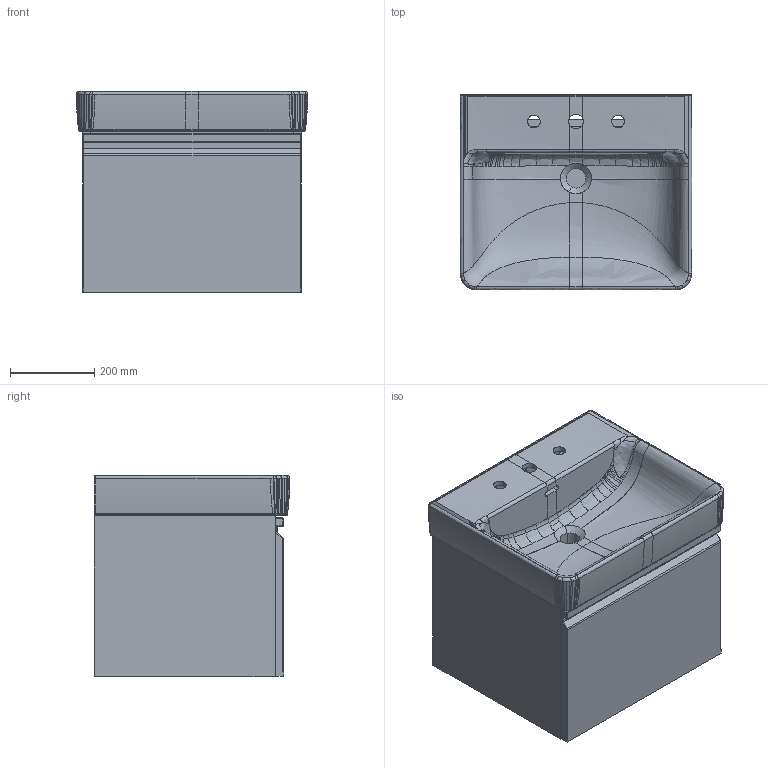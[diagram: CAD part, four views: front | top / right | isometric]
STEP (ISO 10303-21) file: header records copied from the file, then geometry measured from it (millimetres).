
FILE_DESCRIPTION(/* description */ (''),/* implementation_level */ '2;1');
FILE_NAME(/* name */ 'C:\Users\User33\Desktop\Pro S\3D01_483351.stp',/* time_stamp */ '2018-05-10T11:53:49+02:00',/* author */ ('User33'),/* organization */ (''),/* preprocessor_version */ 'ST-DEVELOPER v16.13',/* originating_system */ 'Autodesk Inventor 2018',/* authorisation */ '');
FILE_SCHEMA (('AUTOMOTIVE_DESIGN { 1 0 10303 214 3 1 1 }'));
Products named in the file (20): Assieme1; Parte1; Parte11; Parte21; Parte23; Parte25; Parte27; Parte29; Parte31; Parte41; Parte43; Parte45; Parte47; Parte49; Parte51; Parte61; Parte65; Parte67; Parte69; Parte71
Assembly tree (19 placements, depth 2):
  Assieme1
    Parte1
    Parte11
    Parte21
    Parte23
    Parte25
    Parte27
    Parte29
    Parte31
    Parte41
    Parte43
    Parte45
    Parte47
    Parte49
    Parte51
    Parte61
    Parte65
    Parte67
    Parte69
    Parte71
Bounding box: 549.94 x 464.97 x 478 mm (x, y, z)
Volume: 18153278.9 mm3; surface area: 3413167.9 mm2
Topology: 18 solids, 899 shells, 1388 faces, 6101 edges, 5652 vertices
Faces by surface type: bspline 749, plane 453, cylinder 150, cone 23, sphere 8, torus 5
Full cylindrical faces by diameter (mm): 2.5 x2, 4 x8, 4.1 x2, 5.1 x2, 6 x6, 7.2 x2, 10 x2, 12 x2, 12.5 x2
Entity records: 260104 total; most frequent: CARTESIAN_POINT 216065, ORIENTED_EDGE 7345, EDGE_CURVE 6066, DIRECTION 6015, VERTEX_POINT 5651, B_SPLINE_CURVE_WITH_KNOTS 2821, AXIS2_PLACEMENT_3D 2274, EDGE_LOOP 1491
